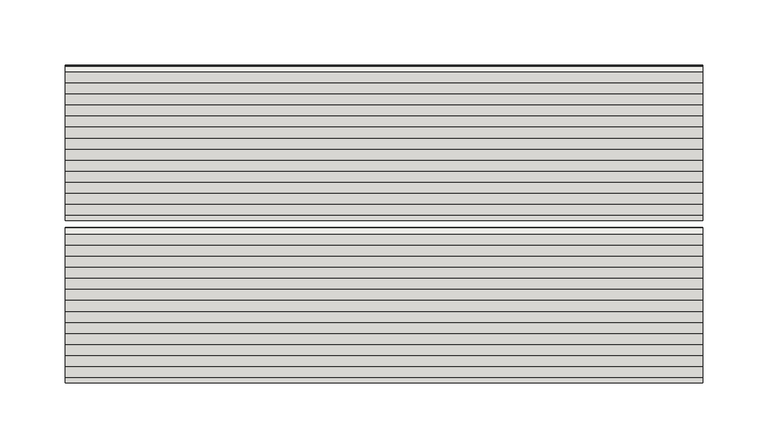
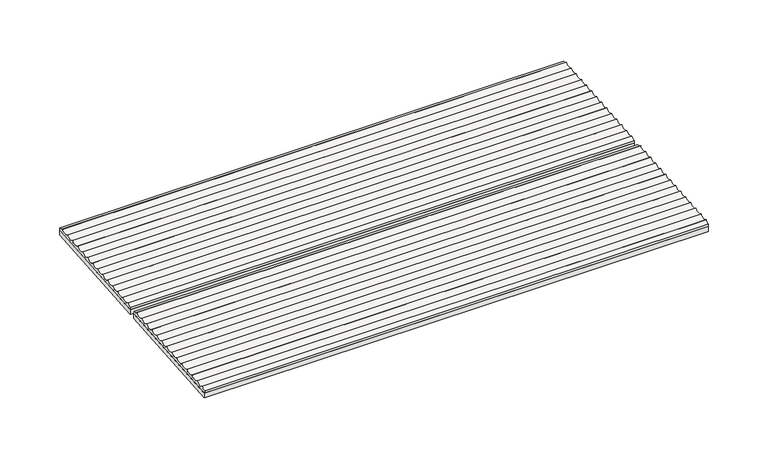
"""IFC4 building model written with IfcOpenShell, lengths in millimetres: slab geometry, ROSA GRES_001 (2 filas) : Piezas 001_Aqua_Blanco_Anti-Slip."""

import ifcopenshell
import ifcopenshell.guid

model = None  # the IFC model being written
_history = None  # IfcOwnerHistory: only IFC2X3 demands one
_inside = {}  # id of a spatial element -> (the spatial element, [elements in it])
_under = {}  # id of a project, library or spatial element -> (it, [spatial elements below it])
_declared = {}  # id of a project -> (the project, [libraries it declares])
_typed = {}  # id of a type object -> (the type object, [elements of that type])
_made_of = {}  # id of a material, layer set ... -> (it, [elements and type objects made of it])


def new_model(schema):
    """Start an empty IFC model of exactly this schema.

    Asked for "IFC4X3", IfcOpenShell would pick the latest addendum, in which some entities
    have other attributes; the version numbers below select the first issue.
    IFC2X3 requires an IfcOwnerHistory on every rooted entity: one is made here for all.
    """
    global model, _history
    if schema == "IFC4X3":
        model = ifcopenshell.file(schema_version=(4, 3, 0, 0))
    else:
        model = ifcopenshell.file(schema=schema)
    _inside.clear()
    _under.clear()
    _declared.clear()
    _typed.clear()
    _made_of.clear()
    _history = None
    if model.schema == "IFC2X3":
        org = make("IfcOrganization", Name="unknown")
        user = make(
            "IfcPersonAndOrganization",
            ThePerson=make("IfcPerson", FamilyName="unknown"),
            TheOrganization=org,
        )
        app = make(
            "IfcApplication",
            ApplicationDeveloper=org,
            Version="unknown",
            ApplicationFullName="unknown",
            ApplicationIdentifier="unknown",
        )
        _history = make(
            "IfcOwnerHistory",
            OwningUser=user,
            OwningApplication=app,
            ChangeAction="ADDED",
            CreationDate=0,
        )
    return model


def make(cls, **values):
    """One entity of the class cls with the attributes given. An attribute that is None is left unset."""
    return model.create_entity(
        cls, **{name: value for name, value in values.items() if value is not None}
    )


def rooted(cls, **values):
    """An entity with a GlobalId (a new one), such as an element, a storey or a relation."""
    return make(cls, GlobalId=ifcopenshell.guid.new(), OwnerHistory=_history, **values)


def si_unit(unit_type, name, prefix=None):
    """IfcSIUnit, for example si_unit("LENGTHUNIT", "METRE", prefix="MILLI")."""
    return make("IfcSIUnit", UnitType=unit_type, Prefix=prefix, Name=name)


def assignment(units):
    """IfcUnitAssignment: the units of a project."""
    return None if units is None else make("IfcUnitAssignment", Units=units)


def point(xyz):
    """IfcCartesianPoint."""
    return None if xyz is None else make("IfcCartesianPoint", Coordinates=xyz)


def direction(xyz):
    """IfcDirection."""
    return None if xyz is None else make("IfcDirection", DirectionRatios=xyz)


def frame(location, z_axis=None, x_axis=None):
    """IfcAxis2Placement3D, a coordinate frame: its origin and axes. An axis left out is left unset."""
    return make(
        "IfcAxis2Placement3D",
        Location=point(location),
        Axis=direction(z_axis),
        RefDirection=direction(x_axis),
    )


def frame_2d(location, x_axis=None):
    """IfcAxis2Placement2D, a coordinate frame in the plane: its origin and x axis."""
    return make(
        "IfcAxis2Placement2D", Location=point(location), RefDirection=direction(x_axis)
    )


def origin():
    """The frame at (0, 0, 0) with its axes left unset."""
    return frame((0.0, 0.0, 0.0))


def place(relative_to, where):
    """IfcLocalPlacement: puts the frame where relative to a parent placement (None: the world)."""
    return make(
        "IfcLocalPlacement", PlacementRelTo=relative_to, RelativePlacement=where
    )


def context(
    kind, dimensions, precision=None, world=None, true_north=None, identifier=None
):
    """IfcGeometricRepresentationContext, for example the 3D "Model" context."""
    return make(
        "IfcGeometricRepresentationContext",
        ContextIdentifier=identifier,
        ContextType=kind,
        CoordinateSpaceDimension=dimensions,
        Precision=precision,
        WorldCoordinateSystem=world,
        TrueNorth=true_north,
    )


def project(units=None, contexts=None):
    """IfcProject with its units and contexts."""
    return rooted(
        "IfcProject",
        Name="project",
        RepresentationContexts=contexts,
        UnitsInContext=assignment(units),
    )


def spatial(cls, under=None, at=None, **own):
    """A site, building, storey or space (cls), placed at a placement, below another one or the project."""
    s = rooted(cls, ObjectPlacement=at, **own)
    if under is not None:
        _under.setdefault(under.id(), (under, []))[1].append(s)
    return s


def polyline(points):
    """IfcPolyline through the points."""
    return make("IfcPolyline", Points=[point(p) for p in points])


def circle_curve(where, radius):
    """IfcCircle in the frame where."""
    return make("IfcCircle", Position=where, Radius=radius)


def trimmed(basis, trim1, trim2, sense, master):
    """IfcTrimmedCurve: the piece of a basis curve between two trims."""
    return make(
        "IfcTrimmedCurve",
        BasisCurve=basis,
        Trim1=trim1,
        Trim2=trim2,
        SenseAgreement=sense,
        MasterRepresentation=master,
    )


def segment(curve, same_sense, transition):
    """IfcCompositeCurveSegment."""
    return make(
        "IfcCompositeCurveSegment",
        Transition=transition,
        SameSense=same_sense,
        ParentCurve=curve,
    )


def composite_curve(segments, self_intersect=None):
    """IfcCompositeCurve: segments joined end to end."""
    return make("IfcCompositeCurve", Segments=segments, SelfIntersect=self_intersect)


def outline(outer, holes=None, kind="AREA"):
    """IfcArbitraryClosedProfileDef: a profile drawn as a closed curve; with holes, ...WithVoids."""
    if holes is None:
        return make("IfcArbitraryClosedProfileDef", ProfileType=kind, OuterCurve=outer)
    return make(
        "IfcArbitraryProfileDefWithVoids",
        ProfileType=kind,
        OuterCurve=outer,
        InnerCurves=holes,
    )


def extrude(swept, where, along, depth):
    """IfcExtrudedAreaSolid: the profile swept, set in the frame where, extruded along a direction by depth."""
    return make(
        "IfcExtrudedAreaSolid",
        SweptArea=swept,
        Position=where,
        ExtrudedDirection=direction(along),
        Depth=depth,
    )


def shape(context_of_items, identifier, shape_type, items):
    """IfcShapeRepresentation: the items that make up one representation, for example the "Body"."""
    return make(
        "IfcShapeRepresentation",
        ContextOfItems=context_of_items,
        RepresentationIdentifier=identifier,
        RepresentationType=shape_type,
        Items=items,
    )


def source(mapping_origin, context_of_items, identifier, shape_type, items):
    """IfcRepresentationMap: a shape defined once, which mapped items show again and again."""
    return make(
        "IfcRepresentationMap",
        MappingOrigin=mapping_origin,
        MappedRepresentation=shape(context_of_items, identifier, shape_type, items),
    )


def transform(
    local_origin,
    x_axis=None,
    y_axis=None,
    z_axis=None,
    scale=None,
    scale2=None,
    scale3=None,
    uniform=True,
):
    """IfcCartesianTransformationOperator3D, or its non-uniform kind. x_axis, y_axis, z_axis: its Axis1, 2, 3."""
    if uniform:
        return make(
            "IfcCartesianTransformationOperator3D",
            Axis1=direction(x_axis),
            Axis2=direction(y_axis),
            LocalOrigin=point(local_origin),
            Scale=scale,
            Axis3=direction(z_axis),
        )
    return make(
        "IfcCartesianTransformationOperator3DnonUniform",
        Axis1=direction(x_axis),
        Axis2=direction(y_axis),
        LocalOrigin=point(local_origin),
        Scale=scale,
        Axis3=direction(z_axis),
        Scale2=scale2,
        Scale3=scale3,
    )


def mapped(mapping_source, mapping_target):
    """IfcMappedItem: shows the shape of a source again, moved by a transform."""
    return make(
        "IfcMappedItem", MappingSource=mapping_source, MappingTarget=mapping_target
    )


def made_of(thing, what):
    """Note that an element or type object is made of a material, layer set ...; save() writes the relation."""
    if what is not None:
        _made_of.setdefault(what.id(), (what, []))[1].append(thing)
    return thing


def element(
    cls,
    number,
    at=None,
    inside=None,
    cuts=None,
    type_object=None,
    material=None,
    context=None,
    identifier="Body",
    shape_type=None,
    held_by="IfcProductDefinitionShape",
    body=None,
    shapes=None,
    **own,
):
    """One element of the class cls, such as IfcWall. Its Tag is "e" and its number.

    at: its placement. inside: the storey or other place that contains it. cuts: it is an
    opening in that element (IfcRelVoidsElement). A single representation is given by context,
    identifier, shape_type and body (its items); several are given by shapes. held_by: the class
    of the entity that holds the representations. save() writes the other relations.
    """
    e = rooted(cls, Tag="e%d" % number, ObjectPlacement=at, **own)
    if body is not None:
        shapes = [shape(context, identifier, shape_type, body)]
    if shapes is not None:
        e.Representation = make(held_by, Representations=shapes)
    if inside is not None:
        _inside.setdefault(inside.id(), (inside, []))[1].append(e)
    if cuts is not None:
        rooted(
            "IfcRelVoidsElement", RelatingBuildingElement=cuts, RelatedOpeningElement=e
        )
    if type_object is not None:
        _typed.setdefault(type_object.id(), (type_object, []))[1].append(e)
    return made_of(e, material)


def aggregate(whole, parts):
    """IfcRelAggregates: a whole, such as a stair, and the parts it consists of."""
    return rooted("IfcRelAggregates", RelatingObject=whole, RelatedObjects=parts)


def save(model, path):
    """Write the relations noted so far, then the file.

    IfcRelAggregates (storeys below a building ...), IfcRelContainedInSpatialStructure (elements
    in a storey), IfcRelDefinesByType, IfcRelAssociatesMaterial and IfcRelDeclares: one each for
    every whole, place, type object, material and project.
    """
    for whole, parts in _under.values():
        aggregate(whole, parts)
    for where, things in _inside.values():
        rooted(
            "IfcRelContainedInSpatialStructure",
            RelatedElements=things,
            RelatingStructure=where,
        )
    for kind, things in _typed.values():
        rooted("IfcRelDefinesByType", RelatedObjects=things, RelatingType=kind)
    for what, things in _made_of.values():
        rooted("IfcRelAssociatesMaterial", RelatedObjects=things, RelatingMaterial=what)
    for by, libraries in _declared.values():
        rooted("IfcRelDeclares", RelatingContext=by, RelatedDefinitions=libraries)
    model.write(path)


def slab_8e2b9163(model_context):
    return source(origin(), model_context, "Body", "SweptSolid", [
        extrude(outline(polyline([(59.4997999, 0.0), (-59.4998, 0.0), (-59.4998, 488.9701973), (59.4997999, 488.9701973), (59.4997999, 0.0)])), frame((488.9701973, 183.3614376, 204.5238637), z_axis=(0.0, -0.08112705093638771, 0.9967037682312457), x_axis=(0.0, 0.9967037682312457, 0.08112705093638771)), (0.0, 0.0, 1.0), 5.0),
        extrude(outline(polyline([(59.4998, 0.0), (-59.4997999, 0.0), (-59.4997999, 488.9701973), (59.4998, 488.9701973), (59.4998, 0.0)])), frame((488.9701973, 307.9490099, 214.6647126), z_axis=(0.0, -0.08112705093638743, 0.9967037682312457), x_axis=(0.0, 0.9967037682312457, 0.08112705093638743)), (0.0, 0.0, 1.0), 5.0),
        extrude(outline(composite_curve([segment(polyline([(242.2594772, 214.3344258), (123.6521274, 204.6803392), (123.4389282, 207.2996439)]), True, "CONTINUOUS"), segment(trimmed(circle_curve(frame_2d((122.9853249, 212.8724843)), 5.5912705), [point((123.4389282, 207.2996439))], [point((127.5160501, 209.5960785))], True, "CARTESIAN"), True, "CONTINUOUS"), segment(trimmed(circle_curve(frame_2d((131.4572785, 213.5620619)), 5.5912705), [point((127.5160501, 209.5960785))], [point((135.9880037, 210.2856561))], True, "CARTESIAN"), True, "CONTINUOUS"), segment(trimmed(circle_curve(frame_2d((139.929232, 214.2516395)), 5.5912705), [point((135.9880037, 210.2856561))], [point((144.4599572, 210.9752337))], True, "CARTESIAN"), True, "CONTINUOUS"), segment(trimmed(circle_curve(frame_2d((148.4011856, 214.9412171)), 5.5912705), [point((144.4599572, 210.9752337))], [point((152.9319108, 211.6648113))], True, "CARTESIAN"), True, "CONTINUOUS"), segment(trimmed(circle_curve(frame_2d((156.8731392, 215.6307947)), 5.5912705), [point((152.9319108, 211.6648113))], [point((161.4038643, 212.3543889))], True, "CARTESIAN"), True, "CONTINUOUS"), segment(trimmed(circle_curve(frame_2d((165.3450927, 216.3203723)), 5.5912705), [point((161.4038643, 212.3543889))], [point((169.8758179, 213.0439666))], True, "CARTESIAN"), True, "CONTINUOUS"), segment(trimmed(circle_curve(frame_2d((173.8170463, 217.00995)), 5.5912705), [point((169.8758179, 213.0439666))], [point((178.3477714, 213.7335442))], True, "CARTESIAN"), True, "CONTINUOUS"), segment(trimmed(circle_curve(frame_2d((182.2889998, 217.6995276)), 5.5912705), [point((178.3477714, 213.7335442))], [point((186.819725, 214.4231218))], True, "CARTESIAN"), True, "CONTINUOUS"), segment(trimmed(circle_curve(frame_2d((190.7609534, 218.3891052)), 5.5912705), [point((186.819725, 214.4231218))], [point((195.2916785, 215.1126994))], True, "CARTESIAN"), True, "CONTINUOUS"), segment(trimmed(circle_curve(frame_2d((199.2329069, 219.0786828)), 5.5912705), [point((195.2916785, 215.1126994))], [point((203.7636321, 215.802277))], True, "CARTESIAN"), True, "CONTINUOUS"), segment(trimmed(circle_curve(frame_2d((207.7048605, 219.7682604)), 5.5912705), [point((203.7636321, 215.802277))], [point((212.2355856, 216.4918546))], True, "CARTESIAN"), True, "CONTINUOUS"), segment(trimmed(circle_curve(frame_2d((216.176814, 220.457838)), 5.5912705), [point((212.2355856, 216.4918546))], [point((220.7075392, 217.1814322))], True, "CARTESIAN"), True, "CONTINUOUS"), segment(trimmed(circle_curve(frame_2d((224.6487676, 221.1474157)), 5.5912705), [point((220.7075392, 217.1814322))], [point((229.1794928, 217.8710099))], True, "CARTESIAN"), True, "CONTINUOUS"), segment(trimmed(circle_curve(frame_2d((233.1207211, 221.8369933)), 5.5912705), [point((229.1794928, 217.8710099))], [point((237.6514463, 218.5605875))], True, "CARTESIAN"), True, "CONTINUOUS"), segment(trimmed(circle_curve(frame_2d((241.5926747, 222.5265709)), 5.5912705), [point((237.6514463, 218.5605875))], [point((242.046278, 216.9537305))], True, "CARTESIAN"), True, "CONTINUOUS"), segment(polyline([(242.046278, 216.9537305), (242.2594772, 214.3344258)]), True, "CONTINUOUS")], self_intersect=False)), frame((0.0, 0.0, 0.0), z_axis=(1.0, 0.0, 0.0), x_axis=(0.0, 1.0, 0.0)), (0.0, 0.0, 1.0), 488.9701973),
        extrude(outline(composite_curve([segment(polyline([(366.8470495, 224.4752747), (248.2396998, 214.8211881), (248.0265006, 217.4404928)]), True, "CONTINUOUS"), segment(trimmed(circle_curve(frame_2d((247.5728973, 223.0133332)), 5.5912705), [point((248.0265006, 217.4404928))], [point((252.1036225, 219.7369274))], True, "CARTESIAN"), True, "CONTINUOUS"), segment(trimmed(circle_curve(frame_2d((256.0448508, 223.7029108)), 5.5912705), [point((252.1036225, 219.7369274))], [point((260.575576, 220.426505))], True, "CARTESIAN"), True, "CONTINUOUS"), segment(trimmed(circle_curve(frame_2d((264.5168044, 224.3924884)), 5.5912705), [point((260.575576, 220.426505))], [point((269.0475296, 221.1160826))], True, "CARTESIAN"), True, "CONTINUOUS"), segment(trimmed(circle_curve(frame_2d((272.9887579, 225.082066)), 5.5912705), [point((269.0475296, 221.1160826))], [point((277.5194831, 221.8056602))], True, "CARTESIAN"), True, "CONTINUOUS"), segment(trimmed(circle_curve(frame_2d((281.4607115, 225.7716436)), 5.5912705), [point((277.5194831, 221.8056602))], [point((285.9914367, 222.4952379))], True, "CARTESIAN"), True, "CONTINUOUS"), segment(trimmed(circle_curve(frame_2d((289.9326651, 226.4612213)), 5.5912705), [point((285.9914367, 222.4952379))], [point((294.4633902, 223.1848155))], True, "CARTESIAN"), True, "CONTINUOUS"), segment(trimmed(circle_curve(frame_2d((298.4046186, 227.1507989)), 5.5912705), [point((294.4633902, 223.1848155))], [point((302.9353438, 223.8743931))], True, "CARTESIAN"), True, "CONTINUOUS"), segment(trimmed(circle_curve(frame_2d((306.8765722, 227.8403765)), 5.5912705), [point((302.9353438, 223.8743931))], [point((311.4072973, 224.5639707))], True, "CARTESIAN"), True, "CONTINUOUS"), segment(trimmed(circle_curve(frame_2d((315.3485257, 228.5299541)), 5.5912705), [point((311.4072973, 224.5639707))], [point((319.8792509, 225.2535483))], True, "CARTESIAN"), True, "CONTINUOUS"), segment(trimmed(circle_curve(frame_2d((323.8204793, 229.2195317)), 5.5912705), [point((319.8792509, 225.2535483))], [point((328.3512044, 225.9431259))], True, "CARTESIAN"), True, "CONTINUOUS"), segment(trimmed(circle_curve(frame_2d((332.2924328, 229.9091093)), 5.5912705), [point((328.3512044, 225.9431259))], [point((336.823158, 226.6327035))], True, "CARTESIAN"), True, "CONTINUOUS"), segment(trimmed(circle_curve(frame_2d((340.7643864, 230.5986869)), 5.5912705), [point((336.823158, 226.6327035))], [point((345.2951115, 227.3222812))], True, "CARTESIAN"), True, "CONTINUOUS"), segment(trimmed(circle_curve(frame_2d((349.2363399, 231.2882646)), 5.5912705), [point((345.2951115, 227.3222812))], [point((353.7670651, 228.0118588))], True, "CARTESIAN"), True, "CONTINUOUS"), segment(trimmed(circle_curve(frame_2d((357.7082935, 231.9778422)), 5.5912705), [point((353.7670651, 228.0118588))], [point((362.2390187, 228.7014364))], True, "CARTESIAN"), True, "CONTINUOUS"), segment(trimmed(circle_curve(frame_2d((366.180247, 232.6674198)), 5.5912705), [point((362.2390187, 228.7014364))], [point((366.6338503, 227.0945794))], True, "CARTESIAN"), True, "CONTINUOUS"), segment(polyline([(366.6338503, 227.0945794), (366.8470495, 224.4752747)]), True, "CONTINUOUS")], self_intersect=False)), frame((0.0, 0.0, 0.0), z_axis=(1.0, 0.0, 0.0), x_axis=(0.0, 1.0, 0.0)), (0.0, 0.0, 1.0), 488.9701973),
    ])


if __name__ == "__main__":
    model = new_model("IFC4")
    model_context = context("Model", 3, world=origin())
    ifc_project = project(units=[si_unit("LENGTHUNIT", "METRE", prefix="MILLI")], contexts=[model_context])
    site = spatial("IfcSite", under=ifc_project)
    building = spatial("IfcBuilding", under=site)
    placement = place(None, origin())
    slab_shape = slab_8e2b9163(model_context)
    element("IfcSlab", 1, ObjectType="ROSA GRES_001 (2 filas) : Piezas 001_Aqua_Blanco_Anti-Slip", at=placement, inside=building, context=model_context, shape_type="MappedRepresentation", body=[
        mapped(slab_shape, transform((0.0, 0.0, 0.0), x_axis=(1.0, 0.0, 0.0), y_axis=(0.0, 1.0, 0.0), z_axis=(0.0, 0.0, 1.0))),
    ])
    save(model, "model.ifc")
